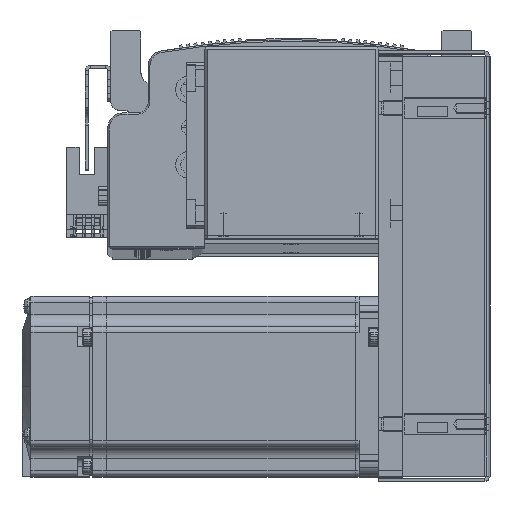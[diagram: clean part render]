
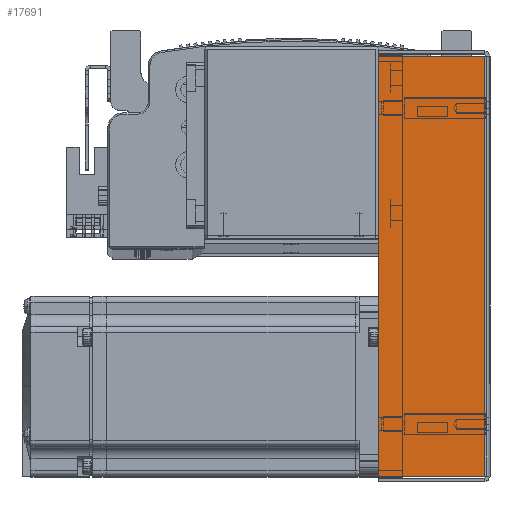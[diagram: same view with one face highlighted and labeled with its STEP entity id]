
A CAD part, top view. The second image highlights one B-rep face of the part: STEP entity #17691.
In plain terms, the highlighted planar face has unit normal (0, 0, 1).
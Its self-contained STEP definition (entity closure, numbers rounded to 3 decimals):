
#4869 = FACE_OUTER_BOUND ( 'NONE', #23808, .T. ) ;
#6468 = EDGE_CURVE ( 'NONE', #92878, #92900, #85921, .T. ) ;
#6472 = EDGE_CURVE ( 'NONE', #92888, #92878, #85908, .T. ) ;
#6473 = EDGE_CURVE ( 'NONE', #92888, #92901, #85922, .T. ) ;
#6516 = EDGE_CURVE ( 'NONE', #92901, #92900, #84747, .T. ) ;
#13139 = CARTESIAN_POINT ( 'NONE',  ( -69.793, 0.737, 33.5 ) ) ;
#13168 = CARTESIAN_POINT ( 'NONE',  ( -69.793, 36., 33.5 ) ) ;
#13191 = CARTESIAN_POINT ( 'NONE',  ( 69.793, 0.737, 33.5 ) ) ;
#13209 = CARTESIAN_POINT ( 'NONE',  ( 69.793, 36., 33.5 ) ) ;
#17691 = ADVANCED_FACE ( 'NONE', ( #4869 ), #56773, .F. ) ;
#23808 = EDGE_LOOP ( 'NONE', ( #80324, #80301, #80173, #80175 ) ) ;
#56731 = CARTESIAN_POINT ( 'NONE',  ( 0., 0., 33.5 ) ) ;
#56732 = DIRECTION ( 'NONE',  ( 0., 0., -1. ) ) ;
#56763 = DIRECTION ( 'NONE',  ( -1., 0., 0. ) ) ;
#56773 = PLANE ( 'NONE',  #60948 ) ;
#57335 = CARTESIAN_POINT ( 'NONE',  ( -69.793, 0., 33.5 ) ) ;
#57336 = DIRECTION ( 'NONE',  ( -1., 0., 0. ) ) ;
#57342 = CARTESIAN_POINT ( 'NONE',  ( -71.5, 0.737, 33.5 ) ) ;
#57344 = CARTESIAN_POINT ( 'NONE',  ( 69.793, 0., 33.5 ) ) ;
#57345 = DIRECTION ( 'NONE',  ( 0., 1., 0. ) ) ;
#57362 = DIRECTION ( 'NONE',  ( 0., 1., 0. ) ) ;
#57545 = DIRECTION ( 'NONE',  ( -1., 0., 0. ) ) ;
#57550 = CARTESIAN_POINT ( 'NONE',  ( 0., 36., 33.5 ) ) ;
#60948 = AXIS2_PLACEMENT_3D ( 'NONE', #56731, #56732, #56763 ) ;
#80173 = ORIENTED_EDGE ( 'NONE', *, *, #6516, .T. ) ;
#80175 = ORIENTED_EDGE ( 'NONE', *, *, #6468, .F. ) ;
#80301 = ORIENTED_EDGE ( 'NONE', *, *, #6473, .T. ) ;
#80324 = ORIENTED_EDGE ( 'NONE', *, *, #6472, .F. ) ;
#84743 = VECTOR ( 'NONE', #57545, 1000. ) ;
#84747 = LINE ( 'NONE', #57550, #84743 ) ;
#85896 = VECTOR ( 'NONE', #57362, 1000. ) ;
#85908 = LINE ( 'NONE', #57342, #85909 ) ;
#85909 = VECTOR ( 'NONE', #57336, 1000. ) ;
#85910 = VECTOR ( 'NONE', #57345, 1000. ) ;
#85921 = LINE ( 'NONE', #57335, #85896 ) ;
#85922 = LINE ( 'NONE', #57344, #85910 ) ;
#92878 = VERTEX_POINT ( 'NONE', #13139 ) ;
#92888 = VERTEX_POINT ( 'NONE', #13191 ) ;
#92900 = VERTEX_POINT ( 'NONE', #13168 ) ;
#92901 = VERTEX_POINT ( 'NONE', #13209 ) ;
